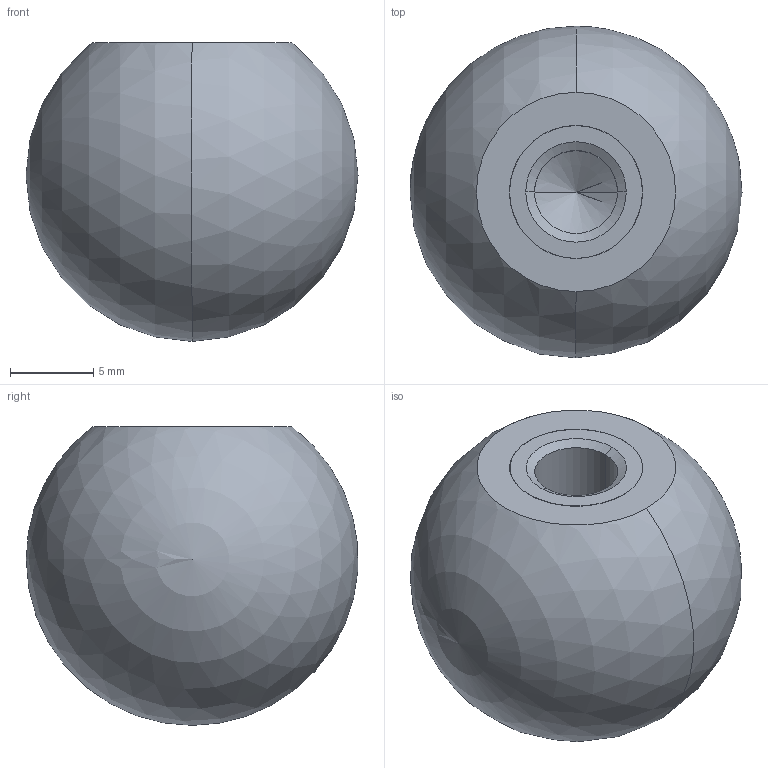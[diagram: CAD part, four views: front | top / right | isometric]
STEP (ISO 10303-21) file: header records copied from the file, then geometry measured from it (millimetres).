
FILE_DESCRIPTION (( 'STEP AP214' ), '1' );
FILE_NAME ('319-KT-20-M6-E.step', '2020-09-03T11:23:44', ( '' ), ( '' ), 'SwSTEP 2.0', 'SolidWorks 2019', '' );
FILE_SCHEMA (( 'AUTOMOTIVE_DESIGN' ));
Length unit declared in the file: millimetre
Products named in the file (1): 319-KT-20-M6-E
Bounding box: 20 x 19.97 x 18 mm (x, y, z)
Volume: 3864 mm3; surface area: 1401.6 mm2
Topology: 1 solids, 1 shells, 15 faces, 35 edges, 21 vertices
Faces by surface type: cylinder 6, cone 4, plane 3, sphere 2
Entity records: 528 total; most frequent: DIRECTION 78, CARTESIAN_POINT 62, ORIENTED_EDGE 56, AXIS2_PLACEMENT_3D 34, EDGE_CURVE 28, EDGE_LOOP 18, VERTEX_POINT 18, CIRCLE 18
